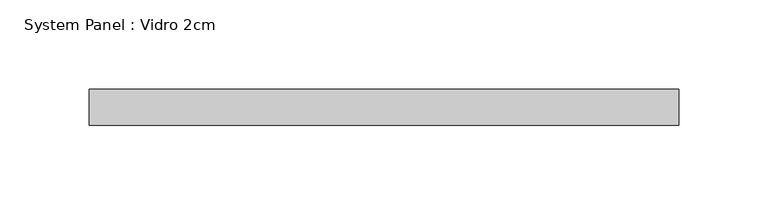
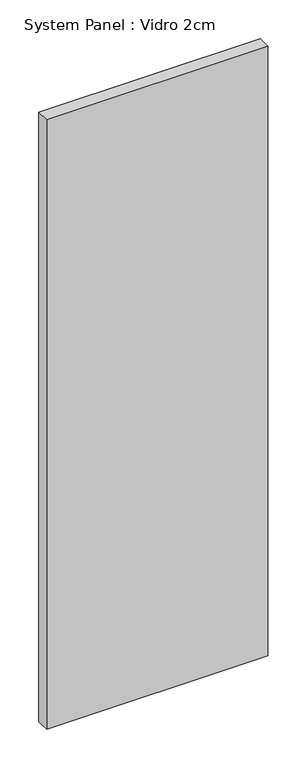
"""IFC4 building model written with IfcOpenShell, lengths in millimetres: plate geometry, System Panel : Vidro 2cm."""

from ifc_helpers import new_model, si_unit, origin, origin_with_axes, place, context, project, spatial, polyline, outline, extrude, source, transform, mapped, element, save


def system_panel_vidro_2cm_38d66d4f(model_context):
    return source(origin(), model_context, "Body", "SweptSolid", [
        extrude(outline(polyline([(165.0, 0.0), (-165.0, 0.0), (-165.0, 20.0), (165.0, 20.0), (165.0, 0.0)])), origin_with_axes(), (0.0, 0.0, 1.0), 960.0),
    ])


if __name__ == "__main__":
    model = new_model("IFC4")
    model_context = context("Model", 3, world=origin())
    ifc_project = project(units=[si_unit("LENGTHUNIT", "METRE", prefix="MILLI")], contexts=[model_context])
    site = spatial("IfcSite", under=ifc_project)
    building = spatial("IfcBuilding", under=site)
    placement = place(None, origin())
    system_panel_vidro_2cm_shape = system_panel_vidro_2cm_38d66d4f(model_context)
    element("IfcPlate", 1, ObjectType="System Panel : Vidro 2cm", at=placement, inside=building, context=model_context, shape_type="MappedRepresentation", body=[
        mapped(system_panel_vidro_2cm_shape, transform((0.0, 0.0, 0.0), x_axis=(1.0, 0.0, 0.0), y_axis=(0.0, 1.0, 0.0), z_axis=(0.0, 0.0, 1.0))),
    ])
    save(model, "model.ifc")
